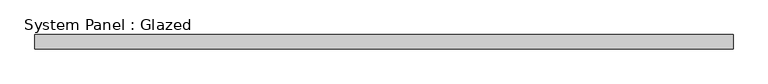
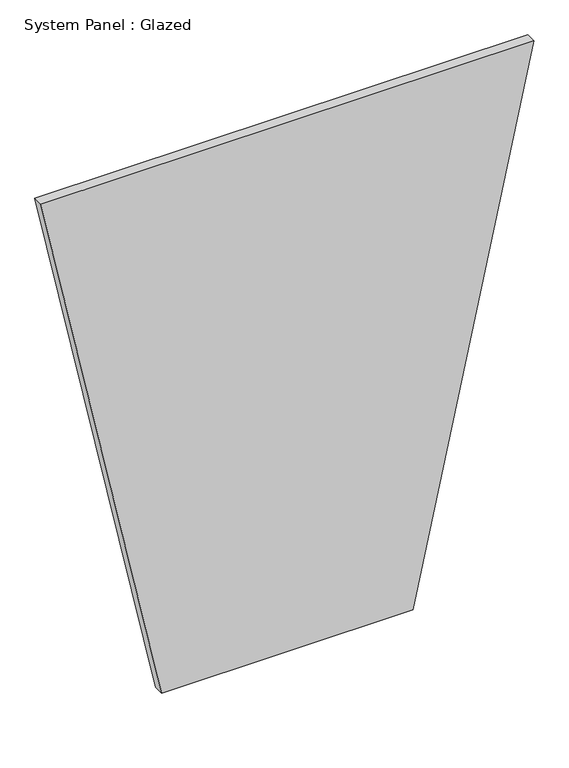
"""IFC4 building model written with IfcOpenShell, lengths in millimetres: plate geometry, System Panel : Glazed."""

from ifc_helpers import new_model, si_unit, frame, origin, place, context, project, spatial, polyline, outline, extrude, source, transform, mapped, element, save


def system_panel_glazed_b6fcacd0(model_context):
    return source(origin(), model_context, "Body", "SweptSolid", [
        extrude(outline(polyline([(0.0, -313.813392), (0.0, 313.813392), (1394.3114777, 615.3663912), (1394.3114777, -615.3663912), (0.0, -313.813392)])), frame((0.0, 19.05, 0.0), z_axis=(0.0, 1.0, 0.0), x_axis=(0.0, 0.0, 1.0)), (0.0, 0.0, 1.0), 25.4),
    ])


if __name__ == "__main__":
    model = new_model("IFC4")
    model_context = context("Model", 3, world=origin())
    ifc_project = project(units=[si_unit("LENGTHUNIT", "METRE", prefix="MILLI")], contexts=[model_context])
    site = spatial("IfcSite", under=ifc_project)
    building = spatial("IfcBuilding", under=site)
    placement = place(None, origin())
    system_panel_glazed_shape = system_panel_glazed_b6fcacd0(model_context)
    element("IfcPlate", 1, ObjectType="System Panel : Glazed", at=placement, inside=building, context=model_context, shape_type="MappedRepresentation", body=[
        mapped(system_panel_glazed_shape, transform((0.0, 0.0, 0.0), x_axis=(1.0, 0.0, 0.0), y_axis=(0.0, 1.0, 0.0), z_axis=(0.0, 0.0, 1.0))),
    ])
    save(model, "model.ifc")
